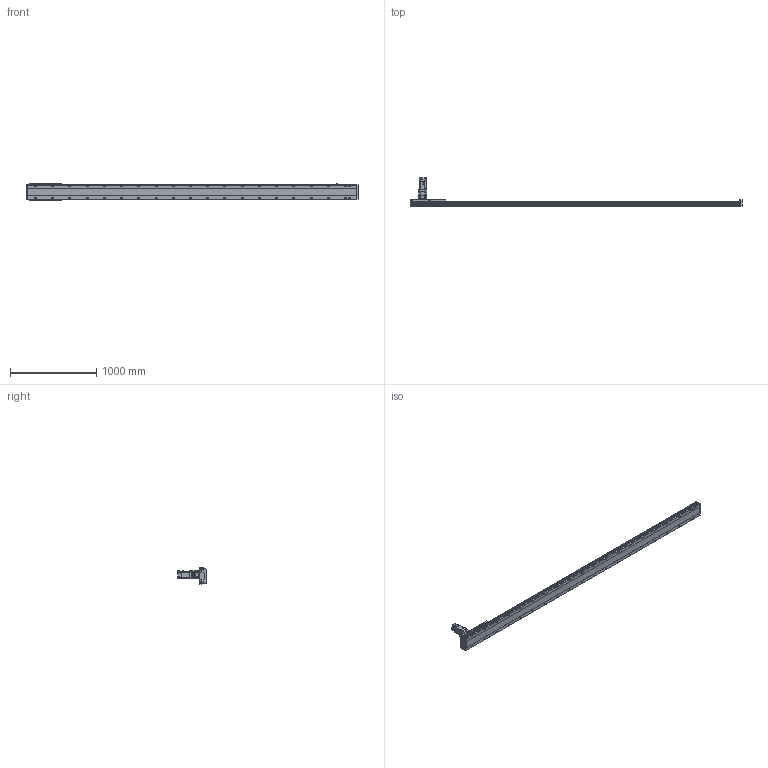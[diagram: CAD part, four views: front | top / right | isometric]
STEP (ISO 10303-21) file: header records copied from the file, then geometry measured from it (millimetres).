
FILE_DESCRIPTION(/* description */ ('STEP AP203'),/* implementation_level */ '2;1');
FILE_NAME(/* name */ 'SHS17A-L13-S3400-BC-T75-C1-N(0)',/* time_stamp */ '2023-03-27T08:58:39+02:00',/* author */ ('License CC BY-ND 4.0'),/* organization */ ('CADENAS'),/* preprocessor_version */ 'ST-DEVELOPER v19.3',/* originating_system */ 'PARTsolutions',/* authorisation */ ' ');
FILE_SCHEMA (('CONFIG_CONTROL_DESIGN'));
Length unit declared in the file: millimetre
Products named in the file (7): SHS17A-L13-S3400-BC-T75-C1-N(0); PSC140-sensor; SHS17A-S3400(0)_body2; T75-p1; SHS17A-S3400_body3; SHS17A-S3400-C1(0)_slider; SHS17A-S3400-C1(0)_body
Assembly tree (13 placements, depth 2):
  SHS17A-L13-S3400-BC-T75-C1-N(0)
    PSC140-sensor  x3
    SHS17A-S3400(0)_body2  x6
    T75-p1
    SHS17A-S3400_body3
    SHS17A-S3400-C1(0)_slider
    SHS17A-S3400-C1(0)_body
Bounding box: 3854 x 333.8 x 193.4 mm (x, y, z)
Volume: 26676031.4 mm3; surface area: 3072267.1 mm2
Topology: 13 solids, 13 shells, 2296 faces, 5851 edges, 3810 vertices
Faces by surface type: plane 1429, cylinder 770, cone 94, torus 3
Full cylindrical faces by diameter (mm): 2.8 x3, 4.134 x24, 4.5 x2, 4.6 x3, 4.917 x15, 5.5 x48, 6 x7, 6.5 x24, 6.647 x48, 6.8 x9, 8 x3, 8.5 x40, 10 x28, 11 x4, 14 x40, 22 x1, 24 x1, 24.2 x1, 28 x1, 28.2 x1, 28.8 x1, 29.8 x1, 48.542 x1, 68 x1, 70 x1, 78 x1, 80 x2
Entity records: 45724 total; most frequent: CARTESIAN_POINT 9088, DIRECTION 7423, ORIENTED_EDGE 7180, EDGE_CURVE 3590, AXIS2_PLACEMENT_3D 2642, VERTEX_POINT 2527, EDGE_LOOP 2147, FACE_BOUND 2147
